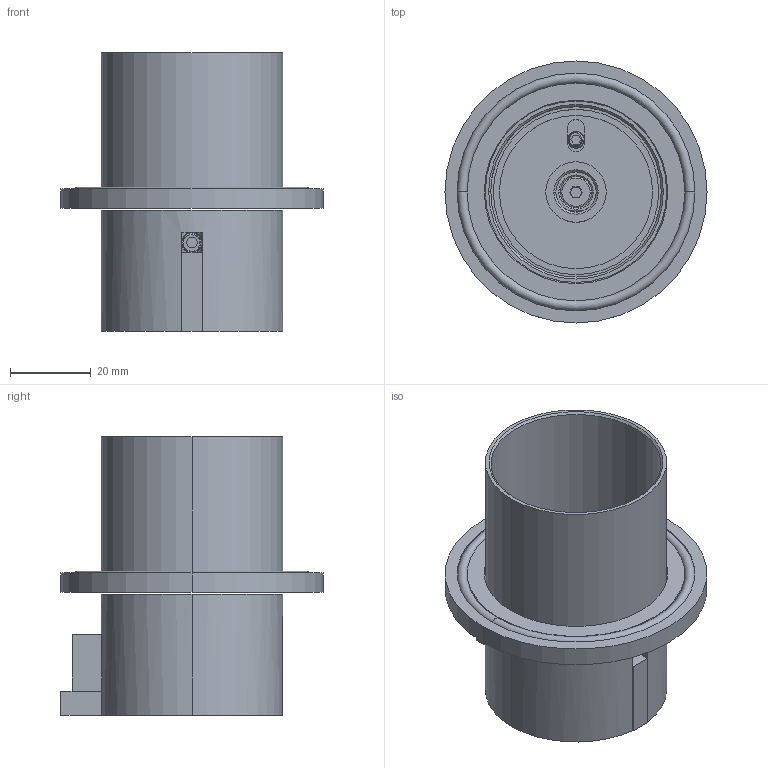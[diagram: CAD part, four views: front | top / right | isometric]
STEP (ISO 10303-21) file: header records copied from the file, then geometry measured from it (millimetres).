
FILE_DESCRIPTION((''),'2;1');
FILE_NAME('ASM0001_ASM','2019-12-07T',('Admin'),(''),'PRO/ENGINEER BY PARAMETRIC TECHNOLOGY CORPORATION, 2015240','PRO/ENGINEER BY PARAMETRIC TECHNOLOGY CORPORATION, 2015240','');
FILE_SCHEMA(('CONFIG_CONTROL_DESIGN'));
Length unit declared in the file: millimetre
Products named in the file (12): PRT0001_AF0; PRT0002_AF0; PRT0003_AF0; PRT0037_AF0; M4X14_AF0; M5X5_AF0; PRT0004_AF0; 1-_AF0; PRT0005_AF0; 49X2_AF0; 59X2-5_AF0; ASM0001_ASM
Assembly tree (11 placements, depth 2):
  ASM0001_ASM
    PRT0001_AF0
    PRT0002_AF0
    PRT0003_AF0
    PRT0037_AF0
    M4X14_AF0
    M5X5_AF0
    PRT0004_AF0
    1-_AF0
    PRT0005_AF0
    49X2_AF0
    59X2-5_AF0
Bounding box: 65 x 65 x 69.1 mm (x, y, z)
Volume: 57516.7 mm3; surface area: 33153.7 mm2
Topology: 11 solids, 13 shells, 301 faces, 749 edges, 477 vertices
Faces by surface type: cylinder 141, plane 75, bspline 45, cone 28, torus 12
Entity records: 21927 total; most frequent: CARTESIAN_POINT 15060, ORIENTED_EDGE 1478, DIRECTION 1183, EDGE_CURVE 743, VERTEX_POINT 478, AXIS2_PLACEMENT_3D 435, EDGE_LOOP 327, VECTOR 313
